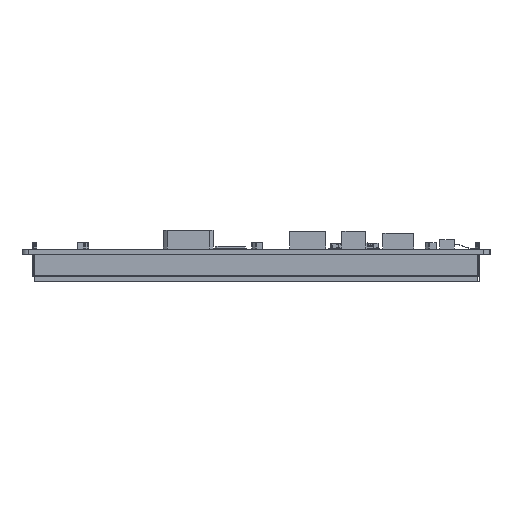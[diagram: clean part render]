
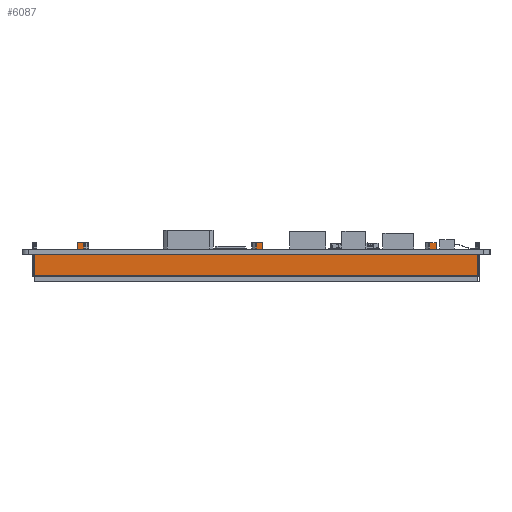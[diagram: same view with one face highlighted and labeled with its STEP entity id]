
A CAD part, left-side view. The second image highlights one B-rep face of the part: STEP entity #6087.
In plain terms, the highlighted planar face has unit normal (-1, 0, 0).
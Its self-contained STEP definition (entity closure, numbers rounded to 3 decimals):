
#6087=ADVANCED_FACE('',(#10428),#8101,.F.);
#8101=PLANE('',#53683);
#10428=FACE_OUTER_BOUND('',#12930,.T.);
#12930=EDGE_LOOP('',(#25568,#25569,#25570,#25571,#25572,#25573,#25574,#25575,
#25576,#25577,#25578,#25579,#25580,#25581,#25582,#25583,#25584,#25585,#25586,
#25587,#25588,#25589));
#25568=ORIENTED_EDGE('',*,*,#37984,.F.);
#25569=ORIENTED_EDGE('',*,*,#37985,.T.);
#25570=ORIENTED_EDGE('',*,*,#37986,.T.);
#25571=ORIENTED_EDGE('',*,*,#37981,.T.);
#25572=ORIENTED_EDGE('',*,*,#37987,.F.);
#25573=ORIENTED_EDGE('',*,*,#37988,.F.);
#25574=ORIENTED_EDGE('',*,*,#37989,.T.);
#25575=ORIENTED_EDGE('',*,*,#37990,.T.);
#25576=ORIENTED_EDGE('',*,*,#37991,.T.);
#25577=ORIENTED_EDGE('',*,*,#37977,.T.);
#25578=ORIENTED_EDGE('',*,*,#37992,.F.);
#25579=ORIENTED_EDGE('',*,*,#37993,.F.);
#25580=ORIENTED_EDGE('',*,*,#37994,.T.);
#25581=ORIENTED_EDGE('',*,*,#37995,.T.);
#25582=ORIENTED_EDGE('',*,*,#37996,.T.);
#25583=ORIENTED_EDGE('',*,*,#37973,.T.);
#25584=ORIENTED_EDGE('',*,*,#37997,.F.);
#25585=ORIENTED_EDGE('',*,*,#37998,.T.);
#25586=ORIENTED_EDGE('',*,*,#37999,.F.);
#25587=ORIENTED_EDGE('',*,*,#38000,.F.);
#25588=ORIENTED_EDGE('',*,*,#38001,.T.);
#25589=ORIENTED_EDGE('',*,*,#37971,.T.);
#31264=VERTEX_POINT('',#79557);
#31266=VERTEX_POINT('',#79561);
#31267=VERTEX_POINT('',#79565);
#31269=VERTEX_POINT('',#79568);
#31271=VERTEX_POINT('',#79574);
#31273=VERTEX_POINT('',#79577);
#31275=VERTEX_POINT('',#79583);
#31277=VERTEX_POINT('',#79586);
#31279=VERTEX_POINT('',#79592);
#31280=VERTEX_POINT('',#79594);
#31281=VERTEX_POINT('',#79597);
#31282=VERTEX_POINT('',#79599);
#31283=VERTEX_POINT('',#79601);
#31284=VERTEX_POINT('',#79603);
#31285=VERTEX_POINT('',#79606);
#31286=VERTEX_POINT('',#79608);
#31287=VERTEX_POINT('',#79610);
#31288=VERTEX_POINT('',#79612);
#31289=VERTEX_POINT('',#79615);
#31290=VERTEX_POINT('',#79617);
#31291=VERTEX_POINT('',#79619);
#31292=VERTEX_POINT('',#79621);
#37971=EDGE_CURVE('',#31264,#31266,#44126,.T.);
#37973=EDGE_CURVE('',#31269,#31267,#44128,.T.);
#37977=EDGE_CURVE('',#31273,#31271,#44132,.T.);
#37981=EDGE_CURVE('',#31277,#31275,#44136,.T.);
#37984=EDGE_CURVE('',#31279,#31266,#44139,.T.);
#37985=EDGE_CURVE('',#31279,#31280,#44140,.T.);
#37986=EDGE_CURVE('',#31280,#31277,#44141,.T.);
#37987=EDGE_CURVE('',#31281,#31275,#44142,.T.);
#37988=EDGE_CURVE('',#31282,#31281,#44143,.T.);
#37989=EDGE_CURVE('',#31282,#31283,#44144,.T.);
#37990=EDGE_CURVE('',#31283,#31284,#44145,.T.);
#37991=EDGE_CURVE('',#31284,#31273,#44146,.T.);
#37992=EDGE_CURVE('',#31285,#31271,#44147,.T.);
#37993=EDGE_CURVE('',#31286,#31285,#44148,.T.);
#37994=EDGE_CURVE('',#31286,#31287,#44149,.T.);
#37995=EDGE_CURVE('',#31287,#31288,#44150,.T.);
#37996=EDGE_CURVE('',#31288,#31269,#44151,.T.);
#37997=EDGE_CURVE('',#31289,#31267,#44152,.T.);
#37998=EDGE_CURVE('',#31289,#31290,#44153,.T.);
#37999=EDGE_CURVE('',#31291,#31290,#44154,.T.);
#38000=EDGE_CURVE('',#31292,#31291,#44155,.T.);
#38001=EDGE_CURVE('',#31292,#31264,#44156,.T.);
#44126=LINE('',#79562,#50124);
#44128=LINE('',#79567,#50126);
#44132=LINE('',#79576,#50130);
#44136=LINE('',#79585,#50134);
#44139=LINE('',#79591,#50137);
#44140=LINE('',#79593,#50138);
#44141=LINE('',#79595,#50139);
#44142=LINE('',#79596,#50140);
#44143=LINE('',#79598,#50141);
#44144=LINE('',#79600,#50142);
#44145=LINE('',#79602,#50143);
#44146=LINE('',#79604,#50144);
#44147=LINE('',#79605,#50145);
#44148=LINE('',#79607,#50146);
#44149=LINE('',#79609,#50147);
#44150=LINE('',#79611,#50148);
#44151=LINE('',#79613,#50149);
#44152=LINE('',#79614,#50150);
#44153=LINE('',#79616,#50151);
#44154=LINE('',#79618,#50152);
#44155=LINE('',#79620,#50153);
#44156=LINE('',#79622,#50154);
#50124=VECTOR('',#65222,1.);
#50126=VECTOR('',#65226,1.);
#50130=VECTOR('',#65232,1.);
#50134=VECTOR('',#65238,1.);
#50137=VECTOR('',#65243,1.);
#50138=VECTOR('',#65244,1.);
#50139=VECTOR('',#65245,1.);
#50140=VECTOR('',#65246,1.);
#50141=VECTOR('',#65247,1.);
#50142=VECTOR('',#65248,1.);
#50143=VECTOR('',#65249,1.);
#50144=VECTOR('',#65250,1.);
#50145=VECTOR('',#65251,1.);
#50146=VECTOR('',#65252,1.);
#50147=VECTOR('',#65253,1.);
#50148=VECTOR('',#65254,1.);
#50149=VECTOR('',#65255,1.);
#50150=VECTOR('',#65256,1.);
#50151=VECTOR('',#65257,1.);
#50152=VECTOR('',#65258,1.);
#50153=VECTOR('',#65259,1.);
#50154=VECTOR('',#65260,1.);
#53683=AXIS2_PLACEMENT_3D('',#79623,#65261,#65262);
#65222=DIRECTION('',(0.,1.,0.));
#65226=DIRECTION('',(0.,1.,0.));
#65232=DIRECTION('',(0.,1.,0.));
#65238=DIRECTION('',(0.,1.,0.));
#65243=DIRECTION('',(0.,0.,1.));
#65244=DIRECTION('',(0.,-1.,0.));
#65245=DIRECTION('',(0.,0.,1.));
#65246=DIRECTION('',(0.,0.,-1.));
#65247=DIRECTION('',(0.,-1.,0.));
#65248=DIRECTION('',(0.,0.,-1.));
#65249=DIRECTION('',(0.,-1.,0.));
#65250=DIRECTION('',(0.,0.,-1.));
#65251=DIRECTION('',(0.,0.,-1.));
#65252=DIRECTION('',(0.,-1.,0.));
#65253=DIRECTION('',(0.,0.,-1.));
#65254=DIRECTION('',(0.,-1.,0.));
#65255=DIRECTION('',(0.,0.,-1.));
#65256=DIRECTION('',(0.,0.,-1.));
#65257=DIRECTION('',(0.,-1.,0.));
#65258=DIRECTION('',(0.,0.,-1.));
#65259=DIRECTION('',(0.,-1.,0.));
#65260=DIRECTION('',(0.,0.,-1.));
#65261=DIRECTION('',(1.,0.,0.));
#65262=DIRECTION('',(0.,-1.,0.));
#79557=CARTESIAN_POINT('',(-84.85,60.795,-1.6));
#79561=CARTESIAN_POINT('',(-84.85,74.48,-1.6));
#79562=CARTESIAN_POINT('',(-84.85,-66.52,-1.6));
#79565=CARTESIAN_POINT('',(-84.85,58.795,-1.6));
#79567=CARTESIAN_POINT('',(-84.85,-66.52,-1.6));
#79568=CARTESIAN_POINT('',(-84.85,3.795,-1.6));
#79574=CARTESIAN_POINT('',(-84.85,1.795,-1.6));
#79576=CARTESIAN_POINT('',(-84.85,-66.52,-1.6));
#79577=CARTESIAN_POINT('',(-84.85,-51.325,-1.6));
#79583=CARTESIAN_POINT('',(-84.85,-53.325,-1.6));
#79585=CARTESIAN_POINT('',(-84.85,-66.52,-1.6));
#79586=CARTESIAN_POINT('',(-84.85,-66.52,-1.6));
#79591=CARTESIAN_POINT('',(-84.85,74.48,-8.8));
#79592=CARTESIAN_POINT('',(-84.85,74.48,-8.4));
#79593=CARTESIAN_POINT('',(-84.85,-66.52,-8.4));
#79594=CARTESIAN_POINT('',(-84.85,-66.52,-8.4));
#79595=CARTESIAN_POINT('',(-84.85,-66.52,-8.8));
#79596=CARTESIAN_POINT('',(-84.85,-53.325,2.));
#79597=CARTESIAN_POINT('',(-84.85,-53.325,2.));
#79598=CARTESIAN_POINT('',(-84.85,-51.243,2.));
#79599=CARTESIAN_POINT('',(-84.85,-51.243,2.));
#79600=CARTESIAN_POINT('',(-84.85,-51.243,2.));
#79601=CARTESIAN_POINT('',(-84.85,-51.243,0.));
#79602=CARTESIAN_POINT('',(-84.85,-51.243,0.));
#79603=CARTESIAN_POINT('',(-84.85,-51.325,0.));
#79604=CARTESIAN_POINT('',(-84.85,-51.325,0.));
#79605=CARTESIAN_POINT('',(-84.85,1.795,2.));
#79606=CARTESIAN_POINT('',(-84.85,1.795,2.));
#79607=CARTESIAN_POINT('',(-84.85,3.877,2.));
#79608=CARTESIAN_POINT('',(-84.85,3.877,2.));
#79609=CARTESIAN_POINT('',(-84.85,3.877,2.));
#79610=CARTESIAN_POINT('',(-84.85,3.877,0.));
#79611=CARTESIAN_POINT('',(-84.85,3.877,0.));
#79612=CARTESIAN_POINT('',(-84.85,3.795,0.));
#79613=CARTESIAN_POINT('',(-84.85,3.795,0.));
#79614=CARTESIAN_POINT('',(-84.85,58.795,0.));
#79615=CARTESIAN_POINT('',(-84.85,58.795,0.));
#79616=CARTESIAN_POINT('',(-84.85,60.795,0.));
#79617=CARTESIAN_POINT('',(-84.85,58.713,0.));
#79618=CARTESIAN_POINT('',(-84.85,58.713,2.));
#79619=CARTESIAN_POINT('',(-84.85,58.713,2.));
#79620=CARTESIAN_POINT('',(-84.85,60.795,2.));
#79621=CARTESIAN_POINT('',(-84.85,60.795,2.));
#79622=CARTESIAN_POINT('',(-84.85,60.795,2.));
#79623=CARTESIAN_POINT('',(-84.85,-66.52,-8.8));
